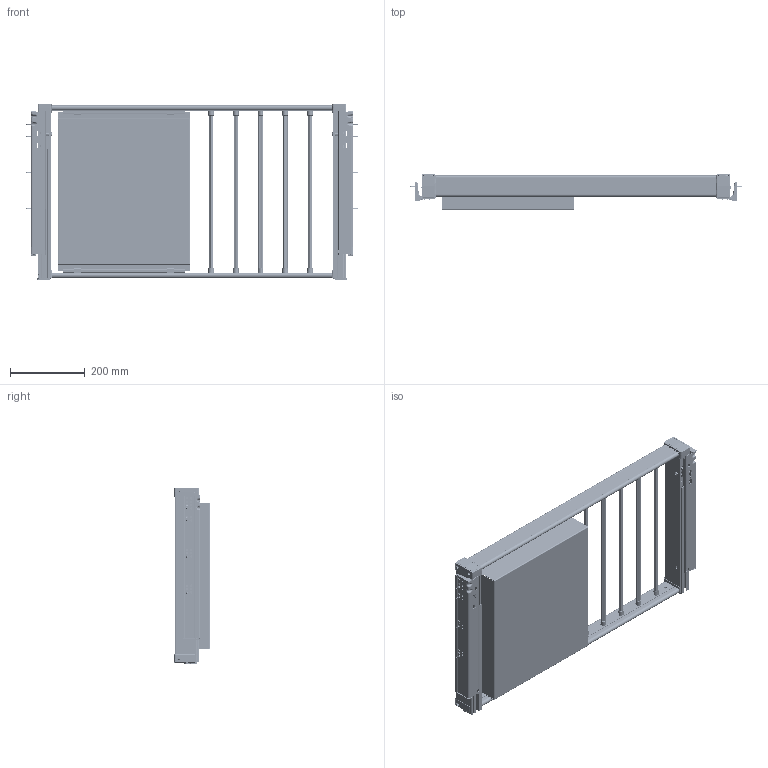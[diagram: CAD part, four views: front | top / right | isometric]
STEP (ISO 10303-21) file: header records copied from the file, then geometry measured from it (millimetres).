
FILE_DESCRIPTION (( 'STEP AP203' ), '1' );
FILE_NAME ('S-6706.STEP', '2024-01-09T07:54:47', ( '' ), ( '' ), 'SwSTEP 2.0', 'SolidWorks 2020', '' );
FILE_SCHEMA (( 'CONFIG_CONTROL_DESIGN' ));
Length unit declared in the file: millimetre
Products named in the file (51): AynalamaTANDEM ÇEKMECE RAYI SOL PYSTON YAYI-SOL; TANDEM RAY KAPAMA PLS.SOL; PAPATYA BORU; square nut thin grade b_din_Square nut DIN 562 M4 -S; AynalamaTANDEM ÇEKMECE RAYI SOL PRÇ.6-SOL; TANDEM ÇEKMECE RAYI SOL PRÇ.3-SOL; D363 - ALÜ.BORU ASKI PLS; D365 - SEPET ASKISI; TANDEM ÇEKMECE RAYI SOL PRÇ.6-SOL; PVC BÖLME 382mm; TANDEM ÇEKMECE RAYI SOL-SOL; SEPET ARA BÖLME; S-6706; ASKI TUTUCU DIÞ PROFÝL; SPSK_M5; AynalamaTANDEM ÇEKMECE RAYI SOL PRÇ.7-SOL; AynalamaTANDEM ÇEKMECE RAYI SOL PRÇ.2-SOL; SAC SEPET MONTAJI; AynalamaTANDEM ÇEKMECE RAYI SOL MJ-SOL; TANDEM ÇEKMECE RAYI SOL PRÇ.2-SOL; AynalamaAlm.Profil Arka Köþe Birleþtirme Pls SOL; ALÜMÝNYUM ÇEKMECE SEPETÝ; TANDEM RAY KAPAMA PLS.SAÐ; BYZ.ALM.BÖLME PLASTÝÐÝ KAPAK; AynalamaTANDEM ÇEKMECE RAYI SOL PYSTON-SOL; KÖÞE BÝRLEÞTÝRME KAPAK PLASTÝÐÝ; F嵨尳; KAYMAZ TABAN; T.R.KAPAMA PLST.V媶A TAPASI; pan head cross collar screw_din_DIN 967 - M5 x 20 - Z --- 18.4S; TANDEM ÇEKMECE RAYI SOL PRÇ.7-SOL; AynalamaTANDEM ÇEKMECE RAYI SOL PRÇ.5-SOL; TANDEM ÇEKMECE RAYI SOL PRÇ.5-SOL; SEPET BÖLME 382mm MJ; RAY KAPAMA PROFÝLÝ; TANDEM ÇEKMECE RAYI SOL MJ-SOL; AynalamaALM.PROFÝL ÖN KÖÞE BÝRLEÞTÝRME PLST.; Alm.Profil Birleþtirme Ýç Parça Plst; TANDEM ÇEKMECE RAYI SOL PRÇ.4-SOL; AynalamaTANDEM ÇEKMECE RAYI SOL PRÇ.4-SOL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
Assembly tree (111 placements, depth 5):
  S-6706
    RAY KAPAMA PROFÝLÝ  x2
    Alm.Profil Arka Köþe Birleþtirme Pls SOL
    ALM.PROFÝL ÖN KÖÞE BÝRLEÞTÝRME PLST.
    TANDEM ÇEKMECE RAYI SOL MJ-SOL
      TANDEM ÇEKMECE RAYI SOL-SOL
      TANDEM ÇEKMECE RAYI SOL PRÇ.2-SOL
      TANDEM ÇEKMECE RAYI SOL PRÇ.3-SOL
      TANDEM ÇEKMECE RAYI SOL PRÇ.4-SOL
      TANDEM ÇEKMECE RAYI SOL PRÇ.5-SOL
      TANDEM ÇEKMECE RAYI SOL PRÇ.6-SOL
      TANDEM ÇEKMECE RAYI SOL PRÇ.7-SOL
      TANDEM ÇEKMECE RAYI SOL PYSTON-SOL
      TANDEM ÇEKMECE RAYI SOL PYSTON YAYI-SOL  x2
    ASKI TUTUCU DIÞ PROFÝL  x2
    ASKI TUTUCU ÝÇ PROFÝL  x2
    D363 - ALÜ.BORU ASKI PLS  x10
    D365 - SEPET ASKISI  x4
    F嵨尳  x2
    SAC SEPET MONTAJI
      ALÜMÝNYUM ÇEKMECE SEPETÝ
      KAYMAZ TABAN
      SEPET ARA BÖLME
        SEPET BÖLME 382mm MJ  x2
          PVC BÖLME 382mm
          BYZ.ALM.BÖLME PLASTÝÐÝ KAPAK
        SEPET BÖLME 346mm MJ  x2
          PVC BÖLME 346mm
          BYZ.ALM.BÖLME PLASTÝÐÝ KAPAK
    AynalamaALM.PROFÝL ÖN KÖÞE BÝRLEÞTÝRME PLST.
    AynalamaAlm.Profil Arka Köþe Birleþtirme Pls SOL
    AynalamaTANDEM ÇEKMECE RAYI SOL MJ-SOL
      AynalamaTANDEM ÇEKMECE RAYI SOL-SOL
      AynalamaTANDEM ÇEKMECE RAYI SOL PRÇ.2-SOL
      AynalamaTANDEM ÇEKMECE RAYI SOL PRÇ.3-SOL
      AynalamaTANDEM ÇEKMECE RAYI SOL PRÇ.4-SOL
      AynalamaTANDEM ÇEKMECE RAYI SOL PRÇ.5-SOL
      AynalamaTANDEM ÇEKMECE RAYI SOL PRÇ.6-SOL
      AynalamaTANDEM ÇEKMECE RAYI SOL PRÇ.7-SOL
      AynalamaTANDEM ÇEKMECE RAYI SOL PYSTON-SOL
      AynalamaTANDEM ÇEKMECE RAYI SOL PYSTON YAYI-SOL  x2
    Alm.Profil Birleþtirme Ýç Parça Plst  x4
    square nut thin grade b_din_Square nut DIN 562 M4 -S  x4
    pan head cross recess screw_din_DIN EN ISO 7045 - M4 x 8 - Z - 8S  x4
    cross fh tapping 7976_din_Tapping screw DIN 7982-ST3.5x19-C-Z-S  x16
    PAPATYA BORU  x5
    SPSK_M5  x2
    pan head cross collar screw_din_DIN 967 - M5 x 20 - Z --- 18.4S  x2
    KÖÞE BÝRLEÞTÝRME KAPAK PLASTÝÐÝ  x2
    TANDEM RAY KAPAMA PLS.SAÐ
    TANDEM RAY KAPAMA PLS.SOL
    T.R.KAPAMA PLST.V媶A TAPASI  x8
Bounding box: 886.09 x 96.91 x 470.5 mm (x, y, z)
Volume: 1967175.5 mm3; surface area: 2897189.6 mm2
Topology: 109 solids, 109 shells, 11499 faces, 29845 edges, 18610 vertices
Faces by surface type: plane 4748, cylinder 3971, cone 1662, torus 510, bspline 496, sphere 112
Entity records: 257159 total; most frequent: CARTESIAN_POINT 105297, ORIENTED_EDGE 30686, DIRECTION 30518, EDGE_CURVE 15343, AXIS2_PLACEMENT_3D 10697, VERTEX_POINT 9713, LINE 9124, VECTOR 9124
